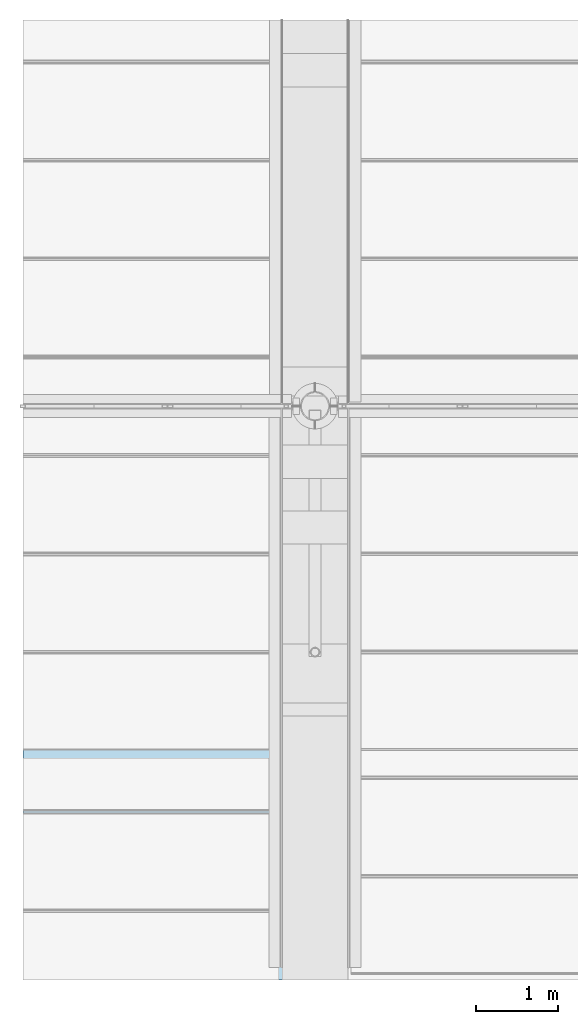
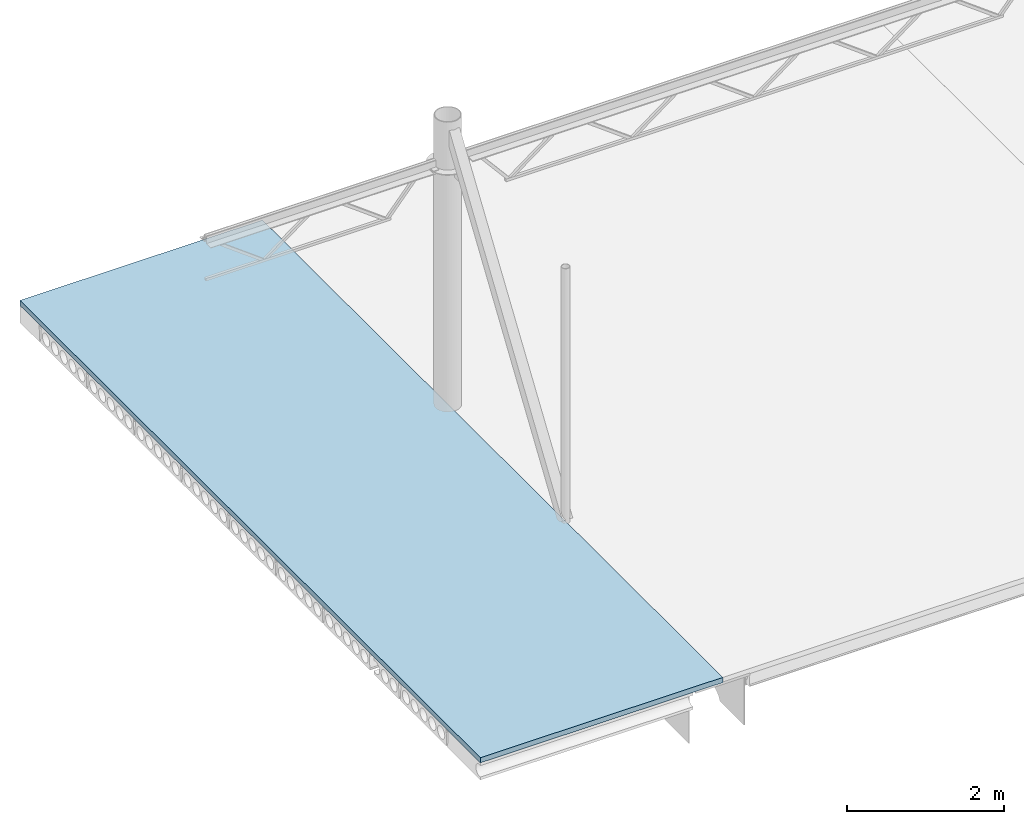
# One storey, part 15 of 21: 1 slab.
"""IFC2X3 building model written with IfcOpenShell, lengths in millimetres."""

from ifc_helpers import new_model, entity, si_unit, converted_unit, derived_unit, direction, frame, origin_with_axes, place, context, subcontext, project, spatial, faceted_brep, type_object, element, save


model = new_model("IFC2X3")

# Units and contexts
model_context = context("Model", 3, precision=0.01, world=frame((0.0, 4.29681676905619e-09, 0.0)), true_north=direction((4.01073788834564e-13, 1.0)))
plan_context = context("Plan", 3, precision=0.01, world=frame((0.0, 4.29681676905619e-09, 0.0)), true_north=direction((4.01073788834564e-13, 1.0)))
body_context = subcontext(model_context, "Body", "Model", "MODEL_VIEW")
ifc_project = project(units=[converted_unit("PLANEANGLEUNIT", "DEGREE", entity("IfcPositiveLengthMeasure", 0.0174532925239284), si_unit("PLANEANGLEUNIT", "RADIAN"), dimensions=[0, 0, 0, 0, 0, 0, 0]), si_unit("AREAUNIT", "SQUARE_METRE"), si_unit("LENGTHUNIT", "METRE", prefix="MILLI"), si_unit("MASSUNIT", "GRAM", prefix="KILO"), si_unit("POWERUNIT", "WATT"), si_unit("PRESSUREUNIT", "PASCAL", prefix="KILO"), si_unit("FORCEUNIT", "NEWTON", prefix="KILO"), si_unit("ELECTRICVOLTAGEUNIT", "VOLT"), si_unit("ELECTRICCURRENTUNIT", "AMPERE"), si_unit("THERMODYNAMICTEMPERATUREUNIT", "DEGREE_CELSIUS"), si_unit("TIMEUNIT", "SECOND"), si_unit("VOLUMEUNIT", "CUBIC_METRE"), derived_unit("LINEARVELOCITYUNIT", [(si_unit("LENGTHUNIT", "METRE"), 1), (si_unit("TIMEUNIT", "SECOND"), -1)]), derived_unit("VOLUMETRICFLOWRATEUNIT", [(si_unit("VOLUMEUNIT", "CUBIC_METRE"), 1), (si_unit("TIMEUNIT", "SECOND"), -1)]), derived_unit("THERMALTRANSMITTANCEUNIT", [(si_unit("POWERUNIT", "WATT"), 1), (si_unit("THERMODYNAMICTEMPERATUREUNIT", "KELVIN"), -1), (si_unit("AREAUNIT", "SQUARE_METRE"), -1)]), derived_unit("SOUNDPRESSUREUNIT", [(si_unit("PRESSUREUNIT", "PASCAL"), 1)])], contexts=[model_context, plan_context])

# Site, building, storey
site_placement = place(None, frame((0.0, -4.29681676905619e-09, 0.0), z_axis=(0.0, 0.0, 1.0), x_axis=(1.0, 0.0, 0.0)))
site = spatial("IfcSite", under=ifc_project, at=site_placement, Name="Gardermoen", CompositionType="ELEMENT")
building_placement = place(site_placement, frame((0.0, 4.29681676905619e-09, 0.0), z_axis=(0.0, 0.0, 1.0), x_axis=(1.0, 0.0, 0.0)))
building = spatial("IfcBuilding", under=site, at=building_placement, Name="TS", CompositionType="ELEMENT")
storey_placement = place(building_placement, origin_with_axes())
storey = spatial("IfcBuildingStorey", under=building, at=storey_placement, Name="F", CompositionType="ELEMENT", Elevation=0.0)

# Slab
slab_type = type_object("IfcSlabType", Name="80*9000", PredefinedType="NOTDEFINED")
slab_placement = place(storey_placement, frame((709000.0, 450500.0, 210835.0), z_axis=(1.0, 0.0, 0.0), x_axis=(0.0, -1.0, 0.0)))
element("IfcSlab", 1, at=slab_placement, inside=storey, type_object=slab_type, Name="PÅSTØP", ObjectType="80*9000", PredefinedType="FLOOR", context=body_context, shape_type="Brep", body=[
    faceted_brep([(16000.9920111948, 40.0, 9000.0), (16000.9920111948, -40.0, 9000.0), (4288.5755361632, -40.0, 9000.0), (4288.5755361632, 40.0, 9000.0), (4288.5755361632, 40.0, 5437.98749999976), (16000.9920111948, 40.0, 5437.98749999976), (16000.9920111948, -39.9999999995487, 5437.98749999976), (4288.5755361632, -39.9999999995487, 5437.98749999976)], [[[0, 1, 2, 3]], [[3, 4, 5, 0]], [[1, 6, 7, 2]], [[4, 3, 2, 7]], [[7, 6, 5, 4]], [[6, 1, 0, 5]]], orient=[[False], [False], [False], [False], [False], [False]]),
])

save(model, "model.ifc")
